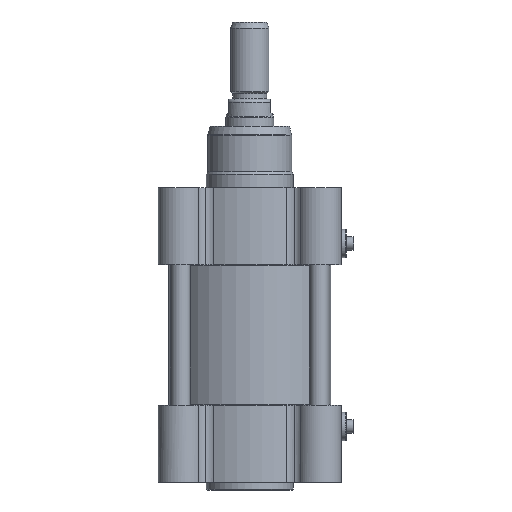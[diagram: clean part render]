
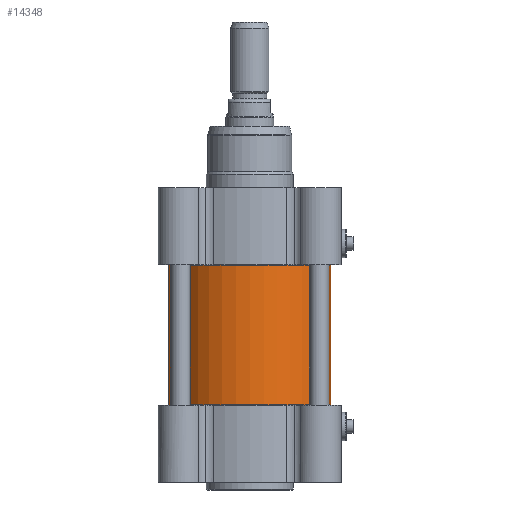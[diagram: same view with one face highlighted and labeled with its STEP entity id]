
A CAD part, front view. The second image highlights one B-rep face of the part: STEP entity #14348.
In plain terms, the highlighted cylindrical face has radius 42 mm (diameter 84 mm), a partial arc.
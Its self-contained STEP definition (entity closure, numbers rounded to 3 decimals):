
#4 = DIRECTION ( 'NONE',  ( -1., 0., 0. ) ) ;
#35 = CARTESIAN_POINT ( 'NONE',  ( -42., 0., 0. ) ) ;
#1093 = VERTEX_POINT ( 'NONE', #27151 ) ;
#1665 = DIRECTION ( 'NONE',  ( -1., 0., 0. ) ) ;
#1921 = DIRECTION ( 'NONE',  ( 0., 0., 1. ) ) ;
#2008 = CARTESIAN_POINT ( 'NONE',  ( 0., 0., 72.8 ) ) ;
#2071 = LINE ( 'NONE', #35, #22725 ) ;
#2655 = EDGE_CURVE ( 'NONE', #11168, #1093, #3760, .T. ) ;
#2724 = ORIENTED_EDGE ( 'NONE', *, *, #13899, .F. ) ;
#2791 = ORIENTED_EDGE ( 'NONE', *, *, #16588, .F. ) ;
#3296 = EDGE_LOOP ( 'NONE', ( #2724, #6146, #8573, #2791 ) ) ;
#3707 = DIRECTION ( 'NONE',  ( 0., 0., 1. ) ) ;
#3760 = LINE ( 'NONE', #25472, #9229 ) ;
#4072 = CYLINDRICAL_SURFACE ( 'NONE', #12424, 42. ) ;
#6146 = ORIENTED_EDGE ( 'NONE', *, *, #2655, .T. ) ;
#6151 = DIRECTION ( 'NONE',  ( -1., 0., 0. ) ) ;
#6449 = DIRECTION ( 'NONE',  ( 0., 0., -1. ) ) ;
#8573 = ORIENTED_EDGE ( 'NONE', *, *, #14144, .F. ) ;
#8809 = CIRCLE ( 'NONE', #18804, 42. ) ;
#9229 = VECTOR ( 'NONE', #12420, 1000. ) ;
#11098 = VERTEX_POINT ( 'NONE', #14085 ) ;
#11168 = VERTEX_POINT ( 'NONE', #19717 ) ;
#11968 = CIRCLE ( 'NONE', #14240, 42. ) ;
#12420 = DIRECTION ( 'NONE',  ( 0., 0., 1. ) ) ;
#12424 = AXIS2_PLACEMENT_3D ( 'NONE', #14866, #21142, #1665 ) ;
#12466 = FACE_OUTER_BOUND ( 'NONE', #3296, .T. ) ;
#13210 = CARTESIAN_POINT ( 'NONE',  ( -42., 0., 0.2 ) ) ;
#13899 = EDGE_CURVE ( 'NONE', #11168, #24319, #11968, .T. ) ;
#14085 = CARTESIAN_POINT ( 'NONE',  ( -42., 0., 72.8 ) ) ;
#14144 = EDGE_CURVE ( 'NONE', #11098, #1093, #8809, .T. ) ;
#14240 = AXIS2_PLACEMENT_3D ( 'NONE', #21085, #6449, #4 ) ;
#14348 = ADVANCED_FACE ( 'NONE', ( #12466 ), #4072, .T. ) ;
#14866 = CARTESIAN_POINT ( 'NONE',  ( 0., 0., 0. ) ) ;
#16588 = EDGE_CURVE ( 'NONE', #24319, #11098, #2071, .T. ) ;
#18804 = AXIS2_PLACEMENT_3D ( 'NONE', #2008, #3707, #6151 ) ;
#19717 = CARTESIAN_POINT ( 'NONE',  ( 42., 0., 0.2 ) ) ;
#21085 = CARTESIAN_POINT ( 'NONE',  ( 0., 0., 0.2 ) ) ;
#21142 = DIRECTION ( 'NONE',  ( 0., 0., 1. ) ) ;
#22725 = VECTOR ( 'NONE', #1921, 1000. ) ;
#24319 = VERTEX_POINT ( 'NONE', #13210 ) ;
#25472 = CARTESIAN_POINT ( 'NONE',  ( 42., 0., 0. ) ) ;
#27151 = CARTESIAN_POINT ( 'NONE',  ( 42., 0., 72.8 ) ) ;
